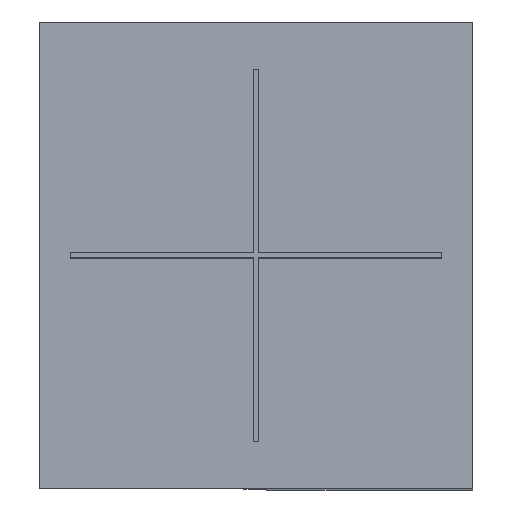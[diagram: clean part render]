
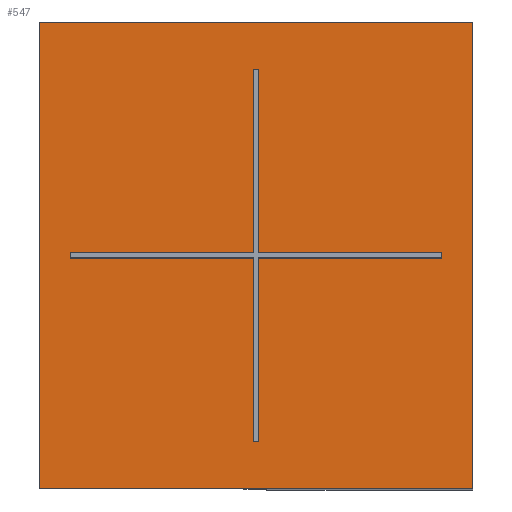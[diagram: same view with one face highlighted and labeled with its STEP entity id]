
A CAD part, top view. The second image highlights one B-rep face of the part: STEP entity #547.
In plain terms, the highlighted planar face has unit normal (0, 0, 1).
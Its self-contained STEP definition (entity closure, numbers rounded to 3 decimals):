
#23=FACE_BOUND('',#104,.T.);
#66=FACE_OUTER_BOUND('',#103,.T.);
#103=EDGE_LOOP('',(#470,#471,#472,#473));
#104=EDGE_LOOP('',(#474,#475,#476,#477,#478,#479,#480,#481,#482,#483,#484,
#485));
#107=LINE('',#738,#169);
#113=LINE('',#750,#175);
#117=LINE('',#759,#179);
#118=LINE('',#762,#180);
#121=LINE('',#767,#183);
#124=LINE('',#773,#186);
#133=LINE('',#789,#195);
#134=LINE('',#792,#196);
#136=LINE('',#796,#198);
#138=LINE('',#800,#200);
#140=LINE('',#803,#202);
#141=LINE('',#805,#203);
#150=LINE('',#834,#212);
#157=LINE('',#846,#219);
#166=LINE('',#880,#228);
#167=LINE('',#882,#229);
#169=VECTOR('',#595,10.);
#175=VECTOR('',#603,10.);
#179=VECTOR('',#609,10.);
#180=VECTOR('',#612,10.);
#183=VECTOR('',#617,10.);
#186=VECTOR('',#622,10.);
#195=VECTOR('',#635,10.);
#196=VECTOR('',#638,10.);
#198=VECTOR('',#642,10.);
#200=VECTOR('',#646,10.);
#202=VECTOR('',#650,10.);
#203=VECTOR('',#653,10.);
#212=VECTOR('',#678,10.);
#219=VECTOR('',#687,10.);
#228=VECTOR('',#726,10.);
#229=VECTOR('',#729,10.);
#231=VERTEX_POINT('',#735);
#232=VERTEX_POINT('',#737);
#234=VERTEX_POINT('',#743);
#237=VERTEX_POINT('',#748);
#238=VERTEX_POINT('',#752);
#241=VERTEX_POINT('',#757);
#242=VERTEX_POINT('',#761);
#245=VERTEX_POINT('',#771);
#250=VERTEX_POINT('',#787);
#251=VERTEX_POINT('',#791);
#252=VERTEX_POINT('',#795);
#253=VERTEX_POINT('',#799);
#264=VERTEX_POINT('',#831);
#265=VERTEX_POINT('',#833);
#269=VERTEX_POINT('',#844);
#279=VERTEX_POINT('',#878);
#281=EDGE_CURVE('',#232,#231,#107,.T.);
#287=EDGE_CURVE('',#234,#237,#113,.T.);
#291=EDGE_CURVE('',#238,#241,#117,.T.);
#292=EDGE_CURVE('',#237,#242,#118,.T.);
#295=EDGE_CURVE('',#241,#232,#121,.T.);
#298=EDGE_CURVE('',#242,#245,#124,.T.);
#307=EDGE_CURVE('',#245,#250,#133,.T.);
#308=EDGE_CURVE('',#251,#238,#134,.T.);
#310=EDGE_CURVE('',#252,#234,#136,.T.);
#312=EDGE_CURVE('',#253,#252,#138,.T.);
#314=EDGE_CURVE('',#231,#253,#140,.T.);
#315=EDGE_CURVE('',#250,#251,#141,.T.);
#328=EDGE_CURVE('',#265,#264,#150,.T.);
#335=EDGE_CURVE('',#269,#264,#157,.T.);
#350=EDGE_CURVE('',#269,#279,#166,.T.);
#351=EDGE_CURVE('',#265,#279,#167,.T.);
#470=ORIENTED_EDGE('',*,*,#350,.T.);
#471=ORIENTED_EDGE('',*,*,#351,.F.);
#472=ORIENTED_EDGE('',*,*,#328,.T.);
#473=ORIENTED_EDGE('',*,*,#335,.F.);
#474=ORIENTED_EDGE('',*,*,#291,.T.);
#475=ORIENTED_EDGE('',*,*,#295,.T.);
#476=ORIENTED_EDGE('',*,*,#281,.T.);
#477=ORIENTED_EDGE('',*,*,#314,.T.);
#478=ORIENTED_EDGE('',*,*,#312,.T.);
#479=ORIENTED_EDGE('',*,*,#310,.T.);
#480=ORIENTED_EDGE('',*,*,#287,.T.);
#481=ORIENTED_EDGE('',*,*,#292,.T.);
#482=ORIENTED_EDGE('',*,*,#298,.T.);
#483=ORIENTED_EDGE('',*,*,#307,.T.);
#484=ORIENTED_EDGE('',*,*,#315,.T.);
#485=ORIENTED_EDGE('',*,*,#308,.T.);
#518=PLANE('',#588);
#547=ADVANCED_FACE('',(#66,#23),#518,.T.);
#588=AXIS2_PLACEMENT_3D('',#881,#727,#728);
#595=DIRECTION('',(1.,0.,0.));
#603=DIRECTION('',(1.,0.,0.));
#609=DIRECTION('',(-1.,0.,0.));
#612=DIRECTION('',(0.,-1.,0.));
#617=DIRECTION('',(0.,1.,0.));
#622=DIRECTION('',(-1.,0.,0.));
#635=DIRECTION('',(0.,-1.,0.));
#638=DIRECTION('',(0.,1.,0.));
#642=DIRECTION('',(0.,-1.,0.));
#646=DIRECTION('',(1.,0.,0.));
#650=DIRECTION('',(0.,1.,0.));
#653=DIRECTION('',(-1.,0.,0.));
#678=DIRECTION('',(0.,-1.,0.));
#687=DIRECTION('',(-1.,0.,0.));
#726=DIRECTION('',(0.,1.,0.));
#727=DIRECTION('center_axis',(0.,0.,1.));
#728=DIRECTION('ref_axis',(1.,0.,0.));
#729=DIRECTION('',(1.,0.,0.));
#735=CARTESIAN_POINT('',(-7.675,0.1,0.));
#737=CARTESIAN_POINT('',(-14.075,0.1,0.));
#738=CARTESIAN_POINT('',(-14.613,0.1,0.));
#743=CARTESIAN_POINT('',(-7.475,0.1,0.));
#748=CARTESIAN_POINT('',(-1.075,0.1,0.));
#750=CARTESIAN_POINT('',(-14.613,0.1,0.));
#752=CARTESIAN_POINT('',(-7.675,-0.1,0.));
#757=CARTESIAN_POINT('',(-14.075,-0.1,0.));
#759=CARTESIAN_POINT('',(-8.113,-0.1,0.));
#761=CARTESIAN_POINT('',(-1.075,-0.1,0.));
#762=CARTESIAN_POINT('',(-1.075,0.05,0.));
#767=CARTESIAN_POINT('',(-14.075,-0.05,0.));
#771=CARTESIAN_POINT('',(-7.475,-0.1,0.));
#773=CARTESIAN_POINT('',(-8.113,-0.1,0.));
#787=CARTESIAN_POINT('',(-7.475,-6.5,0.));
#789=CARTESIAN_POINT('',(-7.475,3.25,0.));
#791=CARTESIAN_POINT('',(-7.675,-6.5,0.));
#792=CARTESIAN_POINT('',(-7.675,-3.25,0.));
#795=CARTESIAN_POINT('',(-7.475,6.5,0.));
#796=CARTESIAN_POINT('',(-7.475,3.25,0.));
#799=CARTESIAN_POINT('',(-7.675,6.5,0.));
#800=CARTESIAN_POINT('',(-11.413,6.5,0.));
#803=CARTESIAN_POINT('',(-7.675,-3.25,0.));
#805=CARTESIAN_POINT('',(-11.313,-6.5,0.));
#831=CARTESIAN_POINT('',(-15.15,-8.15,0.));
#833=CARTESIAN_POINT('',(-15.15,8.15,0.));
#834=CARTESIAN_POINT('',(-15.15,0.,0.));
#844=CARTESIAN_POINT('',(0.,-8.15,0.));
#846=CARTESIAN_POINT('',(0.,-8.15,0.));
#878=CARTESIAN_POINT('',(0.,8.15,0.));
#880=CARTESIAN_POINT('',(0.,0.,0.));
#881=CARTESIAN_POINT('Origin',(-15.15,0.,0.));
#882=CARTESIAN_POINT('',(0.,8.15,0.));
